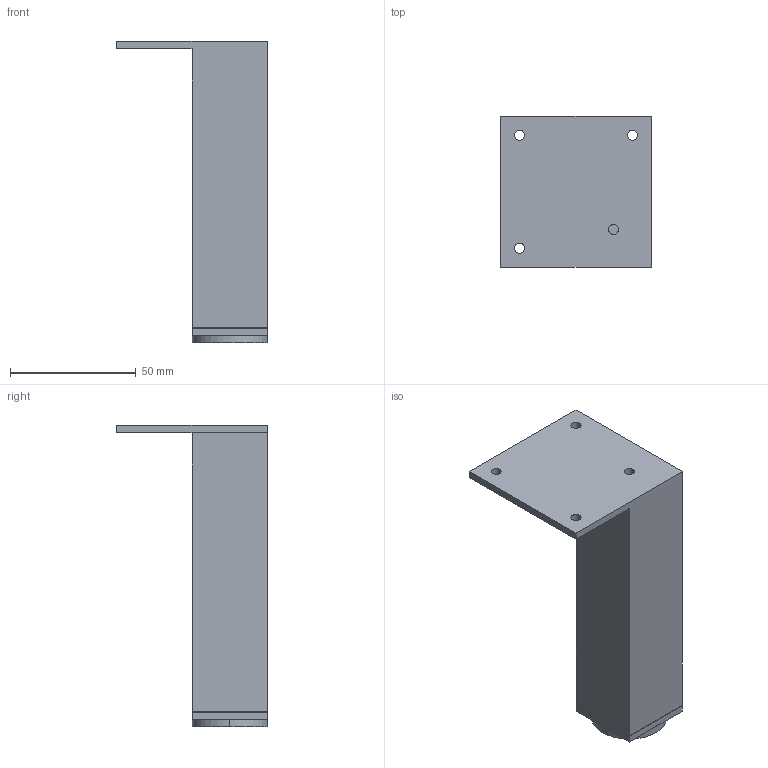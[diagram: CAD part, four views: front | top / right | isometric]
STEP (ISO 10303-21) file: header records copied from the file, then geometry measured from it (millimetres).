
FILE_DESCRIPTION( ( '' ), '1' );
FILE_NAME( 'D:/temp/hettich_stp/hettich/6.5_furniture_legs/furniture_legs/46489.stp', '2013-02-26T12:27:31', ( '' ), ( '' ), ' ', ' ', ' ' );
FILE_SCHEMA( ( 'automotive_design' ) );
Length unit declared in the file: millimetre
Products named in the file (1): 1
Bounding box: 60 x 60 x 120 mm (x, y, z)
Volume: 28324.8 mm3; surface area: 36141.1 mm2
Topology: 1 solids, 1 shells, 39 faces, 93 edges, 60 vertices
Faces by surface type: plane 29, cylinder 10
Entity records: 2234 total; most frequent: DIRECTION 195, STYLED_ITEM 193, PRESENTATION_STYLE_ASSIGNMENT 193, CARTESIAN_POINT 193, COLOUR_RGB 193, ORIENTED_EDGE 186, EDGE_CURVE 93, CURVE_STYLE 93
